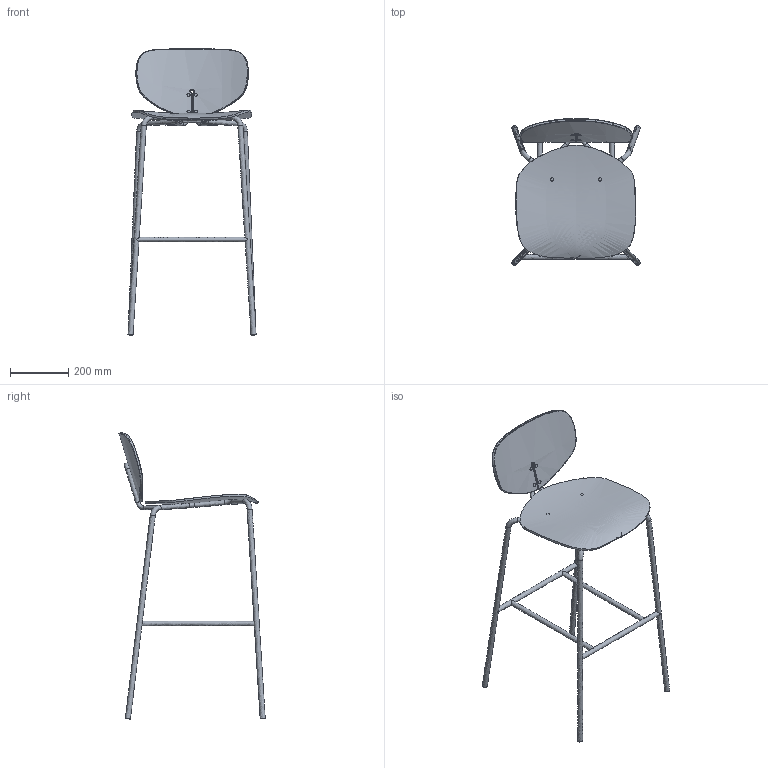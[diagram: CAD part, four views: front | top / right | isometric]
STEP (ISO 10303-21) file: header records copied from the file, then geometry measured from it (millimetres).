
FILE_DESCRIPTION(/* description */ (''),/* implementation_level */ '2;1');
FILE_NAME(/* name */ 'MARIETTA - FAMILY - 3D taburete v1.step',/* time_stamp */ '2023-02-21T16:40:06+01:00',/* author */ (''),/* organization */ (''),/* preprocessor_version */ 'ST-DEVELOPER v19.2',/* originating_system */ 'Autodesk Translation Framework v11.17.0.187',/* authorisation */ '');
FILE_SCHEMA (('AUTOMOTIVE_DESIGN { 1 0 10303 214 3 1 1 }'));
Length unit declared in the file: millimetre
Products named in the file (2): 01.12.2022 stool alto; MARIETTA - FAMILY - 3D
Assembly tree (1 placements, depth 2):
  01.12.2022 stool alto
    MARIETTA - FAMILY - 3D
Bounding box: 440.75 x 503.59 x 983.81 mm (x, y, z)
Volume: 2988428 mm3; surface area: 785279.3 mm2
Topology: 15 solids, 15 shells, 130 faces, 272 edges, 166 vertices
Faces by surface type: bspline 116, plane 14
Entity records: 22164 total; most frequent: CARTESIAN_POINT 20175, ORIENTED_EDGE 536, EDGE_CURVE 268, DIRECTION 175, VERTEX_POINT 166, EDGE_LOOP 148, FACE_OUTER_BOUND 130, ADVANCED_FACE 130
